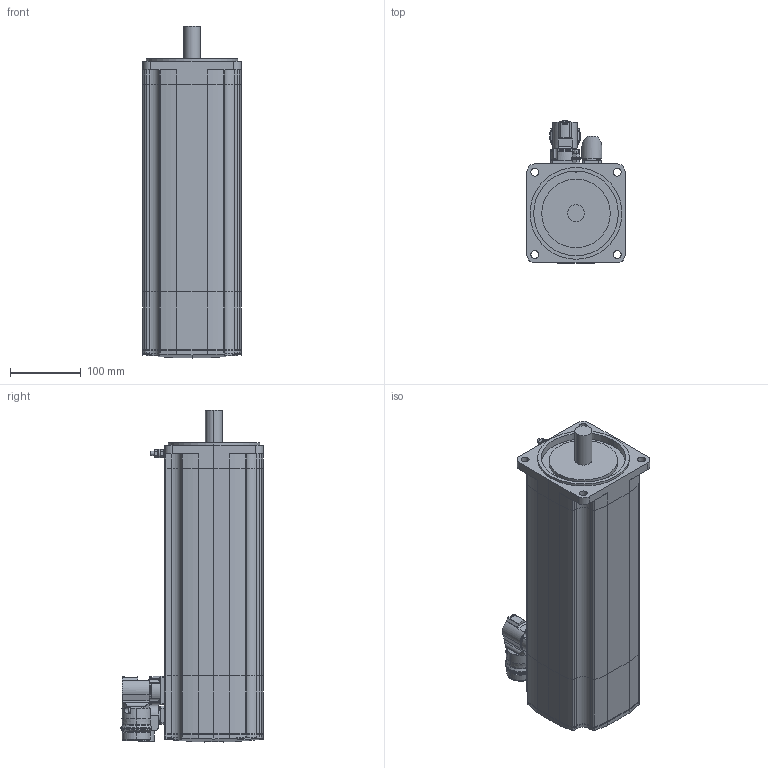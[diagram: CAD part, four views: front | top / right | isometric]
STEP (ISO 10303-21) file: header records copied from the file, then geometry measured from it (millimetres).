
FILE_DESCRIPTION (( 'STEP AP214' ), '1' );
FILE_NAME ('SH31404x0xF2100.STEP', '2013-11-29T10:34:25', ( 'Windows User' ), ( 'Schneider-Electric' ), 'SwSTEP 2.0', 'SolidWorks 2010', '' );
FILE_SCHEMA (( 'AUTOMOTIVE_DESIGN' ));
Length unit declared in the file: millimetre
Products named in the file (9): 1-100005039_DECKEL SH3-140X-X_VM0_Deckel; 1-100010983_K-FLACHDICHTUNG BMH-MH3-140X_000; 1-100009373_LAGERSCHILD SH3-140X-F_VM0_Lagerschild SH3-140x-F-M23 und M40; 1-100010761_K-GEHÄUSE SH3-140X_VM0_Gehäuse SH3-1404-F; 1-100010773_K-FLANSCH SH3-140X_VM0_Flansch SH3-140x mit Welle ohne Passfeder; 1-100009587_K-ERDUNGSBOLZEN M6_VM1; K-ENCODER-CONINVERS-ABGEW_ENCODER-CONINVERS-ABGEWINKELT_000_Single- MultiTurn; 1-100010211_POWER M40 ABGEWINKELT VEREINFACHT_000_ohne Bremse; SH31404x0xF2100
Assembly tree (8 placements, depth 2):
  SH31404x0xF2100
    1-100010211_POWER M40 ABGEWINKELT VEREINFACHT_000_ohne Bremse
    1-100010983_K-FLACHDICHTUNG BMH-MH3-140X_000
    1-100005039_DECKEL SH3-140X-X_VM0_Deckel
    1-100009373_LAGERSCHILD SH3-140X-F_VM0_Lagerschild SH3-140x-F-M23 und M40
    1-100010761_K-GEHÄUSE SH3-140X_VM0_Gehäuse SH3-1404-F
    1-100010773_K-FLANSCH SH3-140X_VM0_Flansch SH3-140x mit Welle ohne Passfeder
    1-100009587_K-ERDUNGSBOLZEN M6_VM1
    K-ENCODER-CONINVERS-ABGEW_ENCODER-CONINVERS-ABGEWINKELT_000_Single- MultiTurn
Bounding box: 140 x 202 x 470.35 mm (x, y, z)
Volume: 7375208.6 mm3; surface area: 434372.5 mm2
Topology: 8 solids, 8 shells, 759 faces, 1936 edges, 1254 vertices
Faces by surface type: cylinder 345, plane 325, bspline 54, cone 23, torus 8, sphere 4
Entity records: 30696 total; most frequent: CARTESIAN_POINT 7903, DIRECTION 3954, ORIENTED_EDGE 3844, EDGE_CURVE 1922, AXIS2_PLACEMENT_3D 1482, VERTEX_POINT 1254, VECTOR 990, LINE 990
